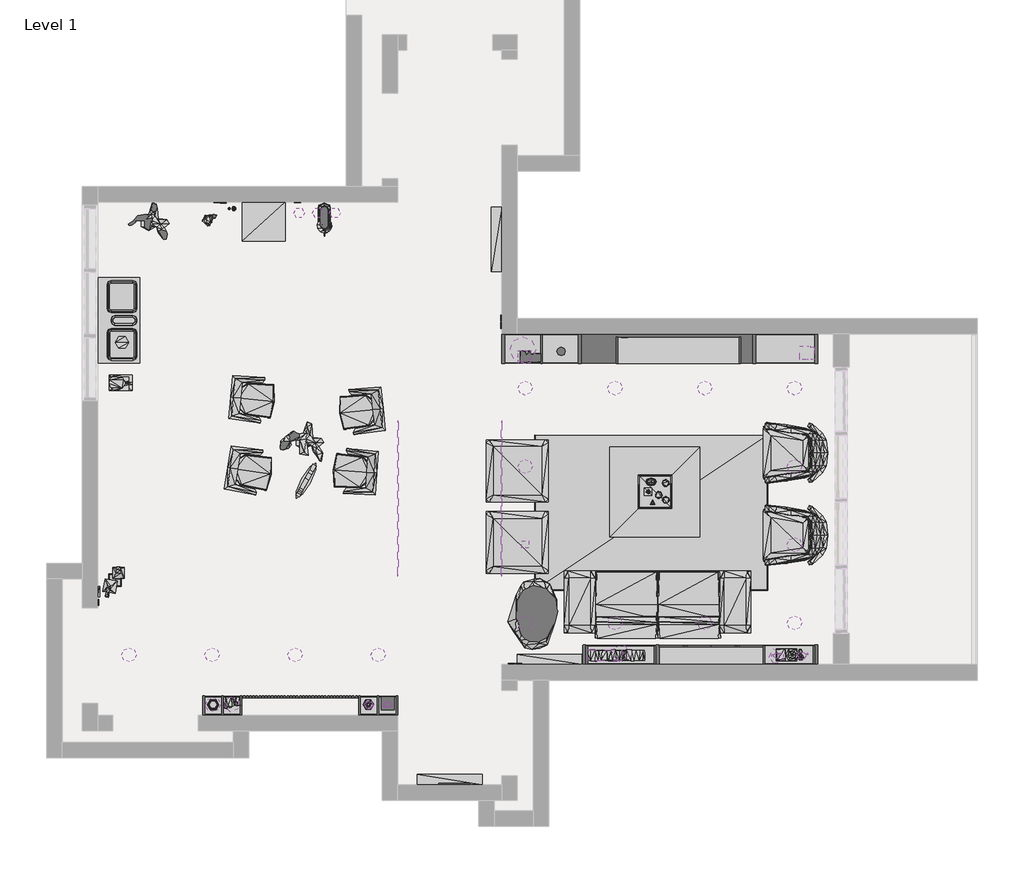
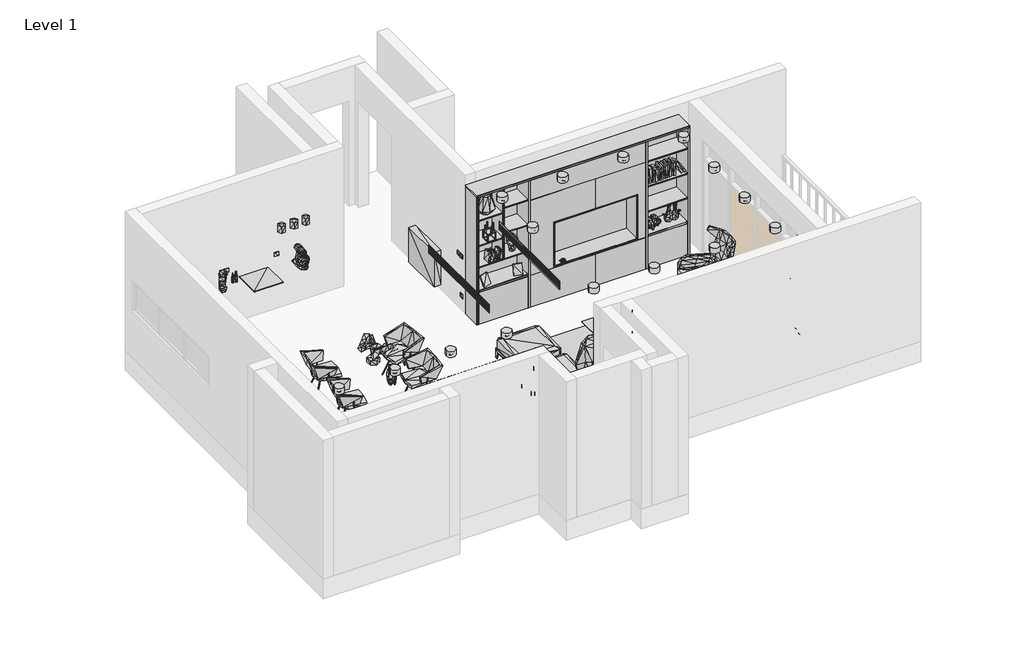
# One storey, part 2 of 2: 73 geographic elements, 17 flow terminals, 4 proxies.
"""IFC4 building model written with IfcOpenShell, lengths in millimetres."""

from ifc_helpers import new_model, si_unit, origin, place, context, project, spatial, transform, mapped, element, save
from components import generic_models_adb6d911, generic_models_1_generic_models_1_fe2f22d1, generic_models_1_generic_models_1_d486a0f3, generic_models_1_generic_models_1_61025e43, generic_models_1_generic_models_1_0ef974a1, inlet_grid_ga15_548a6d25, inlet_grid_ga15_cf351e9f, not_a_type_load_type_catalog_b4710a2c, not_a_type_load_type_catalog_97315635, sink_kitchen_triple_nz_1100_x_535mm_f9583cc0, sink_kitchen_triple_nz_1100_x_535mm_59c7ceb9, geographic_element_39f53625, geographic_element_b8c225c3, geographic_element_45d98eec, geographic_element_6c01276e, geographic_element_3c1573c1, geographic_element_afe0a627, geographic_element_decb433f, geographic_element_067eaa29, geographic_element_efaf2cf7, geographic_element_17db4b80, geographic_element_282e2fb7, geographic_element_2cbf6ab3, geographic_element_aec7c37b, geographic_element_3e976fe9, geographic_element_4d599565, geographic_element_47339385, geographic_element_9300c8df, geographic_element_2400c7e3, geographic_element_84c51689, enscape_assetdefinition_armchair_14_2_enscape_c5dd8c47, enscape_assetdefinition_books_02_1_enscape_assetdefinition_e079a25d, enscape_assetdefinition_books_04_enscape_assetdefinition_721f77ca, enscape_assetdefinition_books_09_1_enscape_assetdefinition_3c5f9357, enscape_assetdefinition_books_10_enscape_assetdefinition_bd5f69e2, enscape_assetdefinition_books_11_enscape_assetdefinition_d6c49cfa, enscape_assetdefinition_bottle_olive_oil_03_1_enscape_c004ce61, enscape_assetdefinition_bottle_olive_oil_1_enscape_0cd1fce3, enscape_assetdefinition_cutting_board_set_enscape_92c2f0eb, enscape_assetdefinition_electric_mixer_1_enscape_94847bc3, enscape_assetdefinition_heater_1_enscape_assetdefinition_d009f5ff, enscape_assetdefinition_interior_plant_17_enscape_d033fa1c, enscape_assetdefinition_interior_plant_81_enscape_1c3ac804, enscape_assetdefinition_interior_plant_90_1_enscape_fa028396, enscape_assetdefinition_light_switch_02_enscape_f65dbdaa, enscape_assetdefinition_lounge_armchair_09_1_enscape_0de7779d, enscape_assetdefinition_photo_frame_enscape_assetdefinition_5837e575, enscape_assetdefinition_picture_frame_portrait_1_enscape_684294eb, enscape_assetdefinition_power_socket_1_enscape_57b8c8f3, enscape_assetdefinition_rug_05_1_enscape_assetdefinition_rug_c4f60c79, enscape_assetdefinition_sculpture_man_enscape_320ed476, enscape_assetdefinition_side_table_15_1_enscape_5be1d814, enscape_assetdefinition_sofa_08_1_enscape_assetdefinition_1a7c3e80, enscape_assetdefinition_sofa_08_footrest_1_enscape_865466e6, enscape_assetdefinition_vase_07_enscape_assetdefinition_vase_3c7b1416, enscape_assetdefinition_vase_09_enscape_assetdefinition_vase_83b714b2, enscape_assetdefinition_vase_13_enscape_assetdefinition_vase_c3a81dce, enscape_assetdefinition_vase_15_enscape_assetdefinition_vase_f9fe4993, enscape_assetdefinition_vase_17_enscape_assetdefinition_vase_ec346c42, enscape_assetdefinition_wall_frame_03_enscape_afdf1664

model = new_model("IFC4")

# Units and contexts
model_context = context("Model", 3, world=origin())
ifc_project = project(units=[si_unit("LENGTHUNIT", "METRE", prefix="MILLI")], contexts=[model_context])

# Site, building, storey
site = spatial("IfcSite", under=ifc_project)
building = spatial("IfcBuilding", under=site)
storey = spatial("IfcBuildingStorey", under=building, Name="Level 1", Elevation=0.0)

# Proxies
placement = place(None, origin())
generic_models_shape = generic_models_adb6d911(model_context)
element("IfcBuildingElementProxy", 1, Name="ArcPro Statue : ArcPro Statue", ObjectType="ArcPro Statue : ArcPro Statue", at=placement, inside=storey, context=model_context, shape_type="MappedRepresentation", body=[
    mapped(generic_models_shape, transform((-6628.2619412, -392.0070722, 759.9999905), x_axis=(0.4848096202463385, 0.8746197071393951, 0.0), y_axis=(-0.8746197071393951, 0.4848096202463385, 0.0), z_axis=(0.0, 0.0, 1.0))),
])
generic_models_1_generic_models_1_shape = generic_models_1_generic_models_1_fe2f22d1(model_context)
generic_models_1_generic_models_1_2_shape = generic_models_1_generic_models_1_d486a0f3(model_context)
generic_models_1_generic_models_1_3_shape = generic_models_1_generic_models_1_61025e43(model_context)
generic_models_1_generic_models_1_4_shape = generic_models_1_generic_models_1_0ef974a1(model_context)
element("IfcBuildingElementProxy", 2, Name="Generic Models 1 : Generic Models 1", ObjectType="Generic Models 1 : Generic Models 1", at=placement, inside=storey, context=model_context, shape_type="MappedRepresentation", body=[
    mapped(generic_models_1_generic_models_1_shape, transform((0.0, 0.0, 0.0), x_axis=(1.0, 0.0, 0.0), y_axis=(0.0, 1.0, 0.0), z_axis=(0.0, 0.0, 1.0))),
    mapped(generic_models_1_generic_models_1_2_shape, transform((0.0, 0.0, 0.0), x_axis=(1.0, 0.0, 0.0), y_axis=(0.0, 1.0, 0.0), z_axis=(0.0, 0.0, 1.0))),
    mapped(generic_models_1_generic_models_1_3_shape, transform((0.0, 0.0, 0.0), x_axis=(1.0, 0.0, 0.0), y_axis=(0.0, 1.0, 0.0), z_axis=(0.0, 0.0, 1.0))),
    mapped(generic_models_1_generic_models_1_4_shape, transform((0.0, 0.0, 0.0), x_axis=(1.0, 0.0, 0.0), y_axis=(0.0, 1.0, 0.0), z_axis=(0.0, 0.0, 1.0))),
])
inlet_grid_ga15_shape = inlet_grid_ga15_548a6d25(model_context)
element("IfcBuildingElementProxy", 3, Name="HVAC_Accessories_Emmeti_Grid-GA : Inlet grid - GA15", ObjectType="HVAC_Accessories_Emmeti_Grid-GA : Inlet grid - GA15", at=placement, inside=storey, context=model_context, shape_type="MappedRepresentation", body=[
    mapped(inlet_grid_ga15_shape, transform((-4080.4531836, -1265.8416665, 2373.8570469), x_axis=(0.0, -1.0, 0.0), y_axis=(1.0, 0.0, 0.0), z_axis=(0.0, 0.0, 1.0))),
])
inlet_grid_ga15_2_shape = inlet_grid_ga15_cf351e9f(model_context)
element("IfcBuildingElementProxy", 4, Name="HVAC_Accessories_Emmeti_Grid-GA : Inlet grid - GA15", ObjectType="HVAC_Accessories_Emmeti_Grid-GA : Inlet grid - GA15", at=placement, inside=storey, context=model_context, shape_type="MappedRepresentation", body=[
    mapped(inlet_grid_ga15_2_shape, transform((-5422.4531836, -1265.8416665, 2373.8570469), x_axis=(0.0, -1.0, 0.0), y_axis=(1.0, 0.0, 0.0), z_axis=(0.0, 0.0, 1.0))),
])

# Flow terminals
not_a_type_load_type_catalog_shape = not_a_type_load_type_catalog_b4710a2c(model_context)
element("IfcFlowTerminal", 5, ObjectType="Lighting_Ceiling-Mounted_Lucent_Square_Edge_90 : Not A Type - Load Type Catalog", at=placement, inside=storey, context=model_context, shape_type="MappedRepresentation", body=[
    mapped(not_a_type_load_type_catalog_shape, transform((-321.4531836, 852.3404759, 2600.0), x_axis=(-1.0, 0.0, 0.0), y_axis=(0.0, 1.0, 0.0), z_axis=(0.0, 0.0, -1.0))),
])
element("IfcFlowTerminal", 6, ObjectType="Lighting_Ceiling-Mounted_Lucent_Square_Edge_90 : Not A Type - Load Type Catalog", at=placement, inside=storey, context=model_context, shape_type="MappedRepresentation", body=[
    mapped(not_a_type_load_type_catalog_shape, transform((-321.4531836, -2165.6595241, 2600.0), x_axis=(-1.0, 0.0, 0.0), y_axis=(0.0, 1.0, 0.0), z_axis=(0.0, 0.0, -1.0))),
])
element("IfcFlowTerminal", 7, ObjectType="Lighting_Ceiling-Mounted_Lucent_Square_Edge_90 : Not A Type - Load Type Catalog", at=placement, inside=storey, context=model_context, shape_type="MappedRepresentation", body=[
    mapped(not_a_type_load_type_catalog_shape, transform((-321.4531836, -1159.6595241, 2600.0), x_axis=(-1.0, 0.0, 0.0), y_axis=(0.0, 1.0, 0.0), z_axis=(0.0, 0.0, -1.0))),
])
element("IfcFlowTerminal", 8, ObjectType="Lighting_Ceiling-Mounted_Lucent_Square_Edge_90 : Not A Type - Load Type Catalog", at=placement, inside=storey, context=model_context, shape_type="MappedRepresentation", body=[
    mapped(not_a_type_load_type_catalog_shape, transform((-321.4531836, -153.6595241, 2600.0), x_axis=(-1.0, 0.0, 0.0), y_axis=(0.0, 1.0, 0.0), z_axis=(0.0, 0.0, -1.0))),
])
element("IfcFlowTerminal", 9, ObjectType="Lighting_Ceiling-Mounted_Lucent_Square_Edge_90 : Not A Type - Load Type Catalog", at=placement, inside=storey, context=model_context, shape_type="MappedRepresentation", body=[
    mapped(not_a_type_load_type_catalog_shape, transform((-3781.4531836, 852.3404759, 2600.0), x_axis=(-1.0, 0.0, 0.0), y_axis=(0.0, 1.0, 0.0), z_axis=(0.0, 0.0, -1.0))),
])
element("IfcFlowTerminal", 10, ObjectType="Lighting_Ceiling-Mounted_Lucent_Square_Edge_90 : Not A Type - Load Type Catalog", at=placement, inside=storey, context=model_context, shape_type="MappedRepresentation", body=[
    mapped(not_a_type_load_type_catalog_shape, transform((-3781.4531836, -2165.6595241, 2600.0), x_axis=(-1.0, 0.0, 0.0), y_axis=(0.0, 1.0, 0.0), z_axis=(0.0, 0.0, -1.0))),
])
element("IfcFlowTerminal", 11, ObjectType="Lighting_Ceiling-Mounted_Lucent_Square_Edge_90 : Not A Type - Load Type Catalog", at=placement, inside=storey, context=model_context, shape_type="MappedRepresentation", body=[
    mapped(not_a_type_load_type_catalog_shape, transform((-3781.4531836, -153.6595241, 2600.0), x_axis=(-1.0, 0.0, 0.0), y_axis=(0.0, 1.0, 0.0), z_axis=(0.0, 0.0, -1.0))),
])
element("IfcFlowTerminal", 12, ObjectType="Lighting_Ceiling-Mounted_Lucent_Square_Edge_90 : Not A Type - Load Type Catalog", at=placement, inside=storey, context=model_context, shape_type="MappedRepresentation", body=[
    mapped(not_a_type_load_type_catalog_shape, transform((-2628.1198503, 852.3404759, 2600.0), x_axis=(-1.0, 0.0, 0.0), y_axis=(0.0, 1.0, 0.0), z_axis=(0.0, 0.0, -1.0))),
])
element("IfcFlowTerminal", 13, ObjectType="Lighting_Ceiling-Mounted_Lucent_Square_Edge_90 : Not A Type - Load Type Catalog", at=placement, inside=storey, context=model_context, shape_type="MappedRepresentation", body=[
    mapped(not_a_type_load_type_catalog_shape, transform((-2628.1198503, -2165.6595241, 2600.0), x_axis=(-1.0, 0.0, 0.0), y_axis=(0.0, 1.0, 0.0), z_axis=(0.0, 0.0, -1.0))),
])
element("IfcFlowTerminal", 14, ObjectType="Lighting_Ceiling-Mounted_Lucent_Square_Edge_90 : Not A Type - Load Type Catalog", at=placement, inside=storey, context=model_context, shape_type="MappedRepresentation", body=[
    mapped(not_a_type_load_type_catalog_shape, transform((-1474.786517, 852.3404759, 2600.0), x_axis=(-1.0, 0.0, 0.0), y_axis=(0.0, 1.0, 0.0), z_axis=(0.0, 0.0, -1.0))),
])
element("IfcFlowTerminal", 15, ObjectType="Lighting_Ceiling-Mounted_Lucent_Square_Edge_90 : Not A Type - Load Type Catalog", at=placement, inside=storey, context=model_context, shape_type="MappedRepresentation", body=[
    mapped(not_a_type_load_type_catalog_shape, transform((-1474.786517, -2165.6595241, 2600.0), x_axis=(-1.0, 0.0, 0.0), y_axis=(0.0, 1.0, 0.0), z_axis=(0.0, 0.0, -1.0))),
])
element("IfcFlowTerminal", 16, ObjectType="Lighting_Ceiling-Mounted_Lucent_Square_Edge_90 : Not A Type - Load Type Catalog", at=placement, inside=storey, context=model_context, shape_type="MappedRepresentation", body=[
    mapped(not_a_type_load_type_catalog_shape, transform((-8871.4531836, -2575.6595241, 2600.0), x_axis=(-1.0, 0.0, 0.0), y_axis=(0.0, 1.0, 0.0), z_axis=(0.0, 0.0, -1.0))),
])
element("IfcFlowTerminal", 17, ObjectType="Lighting_Ceiling-Mounted_Lucent_Square_Edge_90 : Not A Type - Load Type Catalog", at=placement, inside=storey, context=model_context, shape_type="MappedRepresentation", body=[
    mapped(not_a_type_load_type_catalog_shape, transform((-7804.786517, -2575.6595241, 2600.0), x_axis=(-1.0, 0.0, 0.0), y_axis=(0.0, 1.0, 0.0), z_axis=(0.0, 0.0, -1.0))),
])
element("IfcFlowTerminal", 18, ObjectType="Lighting_Ceiling-Mounted_Lucent_Square_Edge_90 : Not A Type - Load Type Catalog", at=placement, inside=storey, context=model_context, shape_type="MappedRepresentation", body=[
    mapped(not_a_type_load_type_catalog_shape, transform((-6738.1198503, -2575.6595241, 2600.0), x_axis=(-1.0, 0.0, 0.0), y_axis=(0.0, 1.0, 0.0), z_axis=(0.0, 0.0, -1.0))),
])
element("IfcFlowTerminal", 19, ObjectType="Lighting_Ceiling-Mounted_Lucent_Square_Edge_90 : Not A Type - Load Type Catalog", at=placement, inside=storey, context=model_context, shape_type="MappedRepresentation", body=[
    mapped(not_a_type_load_type_catalog_shape, transform((-5671.4531836, -2575.6595241, 2600.0), x_axis=(-1.0, 0.0, 0.0), y_axis=(0.0, 1.0, 0.0), z_axis=(0.0, 0.0, -1.0))),
])
not_a_type_load_type_catalog_2_shape = not_a_type_load_type_catalog_97315635(model_context)
element("IfcFlowTerminal", 20, ObjectType="Lighting_Ceiling-Mounted_Lucent_Square_Edge_90 : Not A Type - Load Type Catalog", at=placement, inside=storey, context=model_context, shape_type="MappedRepresentation", body=[
    mapped(not_a_type_load_type_catalog_2_shape, transform((-3781.4531836, -1159.6595241, 2600.0), x_axis=(-1.0, 0.0, 0.0), y_axis=(0.0, 1.0, 0.0), z_axis=(0.0, 0.0, -1.0))),
])
sink_kitchen_triple_nz_1100_x_535mm_shape = sink_kitchen_triple_nz_1100_x_535mm_f9583cc0(model_context)
sink_kitchen_triple_nz_1100_x_535mm_2_shape = sink_kitchen_triple_nz_1100_x_535mm_59c7ceb9(model_context)
element("IfcFlowTerminal", 21, ObjectType="Sink Kitchen-Triple (NZ) : 1100 x 535mm", at=placement, inside=storey, context=model_context, shape_type="MappedRepresentation", body=[
    mapped(sink_kitchen_triple_nz_1100_x_535mm_shape, transform((-8998.5077825, 1706.7512353, -30.0), x_axis=(0.0, 1.0, 0.0), y_axis=(-1.0, 0.0, 0.0), z_axis=(0.0, 0.0, 1.0))),
    mapped(sink_kitchen_triple_nz_1100_x_535mm_2_shape, transform((-8998.5077825, 1706.7512353, -30.0), x_axis=(0.0, 1.0, 0.0), y_axis=(-1.0, 0.0, 0.0), z_axis=(0.0, 0.0, 1.0))),
])

# Geographic elements
geographic_element_shape = geographic_element_39f53625(model_context)
element("IfcGeographicElement", 22, ObjectType="Enscape AssetDefinition - Plushy 03 : Enscape AssetDefinition - Plushy 03", at=placement, inside=storey, context=model_context, shape_type="MappedRepresentation", body=[
    mapped(geographic_element_shape, transform((-231.4531836, -2595.6595241, 560.0), x_axis=(-1.0, 0.0, 0.0), y_axis=(0.0, -1.0, 0.0), z_axis=(0.0, 0.0, 1.0))),
])
geographic_element_2_shape = geographic_element_b8c225c3(model_context)
element("IfcGeographicElement", 23, ObjectType="Enscape AssetDefinition - Candle Lantern : Enscape AssetDefinition - Candle Lantern", at=placement, inside=storey, context=model_context, shape_type="MappedRepresentation", body=[
    mapped(geographic_element_2_shape, transform((-5546.4531836, -3197.7279962, 1017.2631209), x_axis=(1.0, 0.0, 0.0), y_axis=(0.0, 1.0, 0.0), z_axis=(0.0, 0.0, 1.0))),
])
geographic_element_3_shape = geographic_element_45d98eec(model_context)
element("IfcGeographicElement", 24, ObjectType="Enscape AssetDefinition - Candle Lantern 02 : Enscape AssetDefinition - Candle Lantern 02", at=placement, inside=storey, context=model_context, shape_type="MappedRepresentation", body=[
    mapped(geographic_element_3_shape, transform((-3811.4531836, 1349.3404759, 2080.0), x_axis=(1.0, 0.0, 0.0), y_axis=(0.0, 1.0, 0.0), z_axis=(0.0, 0.0, 1.0))),
])
geographic_element_4_shape = geographic_element_6c01276e(model_context)
element("IfcGeographicElement", 25, ObjectType="Enscape AssetDefinition - Canister 02 : Enscape AssetDefinition - Canister 02", at=placement, inside=storey, context=model_context, shape_type="MappedRepresentation", body=[
    mapped(geographic_element_4_shape, transform((-6226.4531836, 3104.3404759, 1640.084), x_axis=(1.0, 0.0, 0.0), y_axis=(0.0, 1.0, 0.0), z_axis=(0.0, 0.0, 1.0))),
])
element("IfcGeographicElement", 26, ObjectType="Enscape AssetDefinition - Canister 02 : Enscape AssetDefinition - Canister 02", at=placement, inside=storey, context=model_context, shape_type="MappedRepresentation", body=[
    mapped(geographic_element_4_shape, transform((-6446.4531836, 3104.3404759, 1640.084), x_axis=(1.0, 0.0, 0.0), y_axis=(0.0, 1.0, 0.0), z_axis=(0.0, 0.0, 1.0))),
])
element("IfcGeographicElement", 27, ObjectType="Enscape AssetDefinition - Canister 02 : Enscape AssetDefinition - Canister 02", at=placement, inside=storey, context=model_context, shape_type="MappedRepresentation", body=[
    mapped(geographic_element_4_shape, transform((-6686.4531836, 3104.3404759, 1640.084), x_axis=(1.0, 0.0, 0.0), y_axis=(0.0, 1.0, 0.0), z_axis=(0.0, 0.0, 1.0))),
])
geographic_element_5_shape = geographic_element_3c1573c1(model_context)
element("IfcGeographicElement", 28, ObjectType="Enscape AssetDefinition - Candle Tray : Enscape AssetDefinition - Candle Tray", at=placement, inside=storey, context=model_context, shape_type="MappedRepresentation", body=[
    mapped(geographic_element_5_shape, transform((-2121.4531836, -480.6595241, 232.5481288), x_axis=(1.0, 0.0, 0.0), y_axis=(0.0, 1.0, 0.0), z_axis=(0.0, 0.0, 1.0))),
])
geographic_element_6_shape = geographic_element_afe0a627(model_context)
element("IfcGeographicElement", 29, ObjectType="Enscape AssetDefinition - Pineapple 1 : Enscape AssetDefinition - Pineapple 1", at=placement, inside=storey, context=model_context, shape_type="MappedRepresentation", body=[
    mapped(geographic_element_6_shape, transform((-5791.4531836, -3215.6595241, 1258.104945), x_axis=(1.0, 0.0, 0.0), y_axis=(0.0, 1.0, 0.0), z_axis=(0.0, 0.0, 1.0))),
])
geographic_element_7_shape = geographic_element_decb433f(model_context)
element("IfcGeographicElement", 30, ObjectType="Enscape AssetDefinition - Sculpture, Bears : Enscape AssetDefinition - Sculpture, Bears", at=placement, inside=storey, context=model_context, shape_type="MappedRepresentation", body=[
    mapped(geographic_element_7_shape, transform((-621.4531836, 1355.2701692, 679.6691341), x_axis=(1.0, 0.0, 0.0), y_axis=(0.0, 1.0, 0.0), z_axis=(0.0, 0.0, 1.0))),
])
geographic_element_8_shape = geographic_element_067eaa29(model_context)
element("IfcGeographicElement", 31, ObjectType="Enscape AssetDefinition - Sculpture, Cats : Enscape AssetDefinition - Sculpture, Cats", at=placement, inside=storey, context=model_context, shape_type="MappedRepresentation", body=[
    mapped(geographic_element_8_shape, transform((-262.0450876, 1348.7991953, 680.0), x_axis=(1.0, 0.0, 0.0), y_axis=(0.0, 1.0, 0.0), z_axis=(0.0, 0.0, 1.0))),
])
geographic_element_9_shape = geographic_element_efaf2cf7(model_context)
element("IfcGeographicElement", 32, ObjectType="Enscape AssetDefinition - Umbrella Holder : Enscape AssetDefinition - Umbrella Holder", at=placement, inside=storey, context=model_context, shape_type="MappedRepresentation", body=[
    mapped(geographic_element_9_shape, transform((-9051.4531836, -1615.6595241, 0.0), x_axis=(1.0, 0.0, 0.0), y_axis=(0.0, 1.0, 0.0), z_axis=(0.0, 0.0, 1.0))),
])
geographic_element_10_shape = geographic_element_17db4b80(model_context)
element("IfcGeographicElement", 33, ObjectType="Enscape AssetDefinition - Stack of Bowls 02 : Enscape AssetDefinition - Stack of Bowls 02", at=placement, inside=storey, context=model_context, shape_type="MappedRepresentation", body=[
    mapped(geographic_element_10_shape, transform((-8962.7531836, 1441.0904759, 663.625), x_axis=(1.0, 0.0, 0.0), y_axis=(0.0, 1.0, 0.0), z_axis=(0.0, 0.0, 1.0))),
])
geographic_element_11_shape = geographic_element_282e2fb7(model_context)
element("IfcGeographicElement", 34, ObjectType="Enscape AssetDefinition - Candle Holder : Enscape AssetDefinition - Candle Holder", at=placement, inside=storey, context=model_context, shape_type="MappedRepresentation", body=[
    mapped(geographic_element_11_shape, transform((-3791.4531836, 1254.2545472, 1586.0258182), x_axis=(1.0, 0.0, 0.0), y_axis=(0.0, 1.0, 0.0), z_axis=(0.0, 0.0, 1.0))),
])
geographic_element_12_shape = geographic_element_2cbf6ab3(model_context)
element("IfcGeographicElement", 35, ObjectType="Enscape AssetDefinition - Cactus, Porcelain 02 : Enscape AssetDefinition - Cactus, Porcelain 02", at=placement, inside=storey, context=model_context, shape_type="MappedRepresentation", body=[
    mapped(geographic_element_12_shape, transform((-556.4531836, -2585.6595241, 2090.0), x_axis=(1.0, 0.0, 0.0), y_axis=(0.0, 1.0, 0.0), z_axis=(0.0, 0.0, 1.0))),
])
geographic_element_13_shape = geographic_element_aec7c37b(model_context)
element("IfcGeographicElement", 36, ObjectType="Enscape AssetDefinition - Cactus, Porcelain 03 : Enscape AssetDefinition - Cactus, Porcelain 03", at=placement, inside=storey, context=model_context, shape_type="MappedRepresentation", body=[
    mapped(geographic_element_13_shape, transform((-226.4531836, -2585.6595241, 1800.0), x_axis=(1.0, 0.0, 0.0), y_axis=(0.0, 1.0, 0.0), z_axis=(0.0, 0.0, 1.0))),
])
geographic_element_14_shape = geographic_element_3e976fe9(model_context)
element("IfcGeographicElement", 37, ObjectType="Enscape AssetDefinition - Rosemary, Potted 1 : Enscape AssetDefinition - Rosemary, Potted 1", at=placement, inside=storey, context=model_context, shape_type="MappedRepresentation", body=[
    mapped(geographic_element_14_shape, transform((-2561.4531836, -2551.562513, 1760.0), x_axis=(1.0, 0.0, 0.0), y_axis=(0.0, 1.0, 0.0), z_axis=(0.0, 0.0, 1.0))),
])
element("IfcGeographicElement", 38, ObjectType="Enscape AssetDefinition - Rosemary, Potted 1 : Enscape AssetDefinition - Rosemary, Potted 1", at=placement, inside=storey, context=model_context, shape_type="MappedRepresentation", body=[
    mapped(geographic_element_14_shape, transform((-3321.4531836, 1324.3404759, 1160.0), x_axis=(1.0, 0.0, 0.0), y_axis=(0.0, 1.0, 0.0), z_axis=(0.0, 0.0, 1.0))),
])
geographic_element_15_shape = geographic_element_4d599565(model_context)
element("IfcGeographicElement", 39, ObjectType="Enscape AssetDefinition - Decoration Collection : Enscape AssetDefinition - Decoration Collection", at=placement, inside=storey, context=model_context, shape_type="MappedRepresentation", body=[
    mapped(geographic_element_15_shape, transform((-391.4531836, -2575.6595241, 960.001), x_axis=(1.0, 0.0, 0.0), y_axis=(0.0, 1.0, 0.0), z_axis=(0.0, 0.0, 1.0))),
])
geographic_element_16_shape = geographic_element_47339385(model_context)
element("IfcGeographicElement", 40, ObjectType="Enscape AssetDefinition - Candle Tray 03 : Enscape AssetDefinition - Candle Tray 03", at=placement, inside=storey, context=model_context, shape_type="MappedRepresentation", body=[
    mapped(geographic_element_16_shape, transform((-556.9881717, -2595.6595241, 1360.0), x_axis=(1.0, 0.0, 0.0), y_axis=(0.0, 1.0, 0.0), z_axis=(0.0, 0.0, 1.0))),
])
geographic_element_17_shape = geographic_element_9300c8df(model_context)
element("IfcGeographicElement", 41, ObjectType="Enscape AssetDefinition - Cooking plate 1 : Enscape AssetDefinition - Cooking plate 1", at=placement, inside=storey, context=model_context, shape_type="MappedRepresentation", body=[
    mapped(geographic_element_17_shape, transform((-7141.4531836, 2994.3404759, 880.0), x_axis=(1.0, 0.0, 0.0), y_axis=(0.0, 1.0, 0.0), z_axis=(0.0, 0.0, 1.0))),
])
geographic_element_18_shape = geographic_element_2400c7e3(model_context)
element("IfcGeographicElement", 42, ObjectType="Enscape AssetDefinition - Origami Vase 03 : Enscape AssetDefinition - Origami Vase 03", at=placement, inside=storey, context=model_context, shape_type="MappedRepresentation", body=[
    mapped(geographic_element_18_shape, transform((-7551.0911821, -3215.6595241, 1468.104945), x_axis=(1.0, 0.0, 0.0), y_axis=(0.0, 1.0, 0.0), z_axis=(0.0, 0.0, 1.0))),
])
geographic_element_19_shape = geographic_element_84c51689(model_context)
element("IfcGeographicElement", 43, ObjectType="Enscape AssetDefinition - Intercom 1 : Enscape AssetDefinition - Intercom 1", at=placement, inside=storey, context=model_context, shape_type="MappedRepresentation", body=[
    mapped(geographic_element_19_shape, transform((-9271.4531836, -1760.6595241, 0.0), x_axis=(0.0, 1.0, 0.0), y_axis=(-1.0, 0.0, 0.0), z_axis=(0.0, 0.0, 1.0))),
])
enscape_assetdefinition_armchair_14_2_enscape_shape = enscape_assetdefinition_armchair_14_2_enscape_c5dd8c47(model_context)
element("IfcGeographicElement", 44, ObjectType="Enscape AssetDefinition - Armchair 14 2 : Enscape AssetDefinition - Armchair 14 2", at=placement, inside=storey, context=model_context, shape_type="MappedRepresentation", body=[
    mapped(enscape_assetdefinition_armchair_14_2_enscape_shape, transform((-321.4531836, -1039.409524, 0.0), x_axis=(0.0, -1.0, 0.0), y_axis=(1.0, 0.0, 0.0), z_axis=(0.0, 0.0, 1.0))),
])
element("IfcGeographicElement", 45, ObjectType="Enscape AssetDefinition - Armchair 14 2 : Enscape AssetDefinition - Armchair 14 2", at=placement, inside=storey, context=model_context, shape_type="MappedRepresentation", body=[
    mapped(enscape_assetdefinition_armchair_14_2_enscape_shape, transform((-321.4531836, 19.9654758, 0.0), x_axis=(0.0, -1.0, 0.0), y_axis=(1.0, 0.0, 0.0), z_axis=(0.0, 0.0, 1.0))),
])
enscape_assetdefinition_books_02_1_enscape_assetdefinition_shape = enscape_assetdefinition_books_02_1_enscape_assetdefinition_e079a25d(model_context)
element("IfcGeographicElement", 46, ObjectType="Enscape AssetDefinition - Books 02 1 : Enscape AssetDefinition - Books 02 1", at=placement, inside=storey, context=model_context, shape_type="MappedRepresentation", body=[
    mapped(enscape_assetdefinition_books_02_1_enscape_assetdefinition_shape, transform((-441.4531836, 1314.3404759, 1659.5863832), x_axis=(0.0, -1.0, 0.0), y_axis=(1.0, 0.0, 0.0), z_axis=(0.0, 0.0, 1.0))),
])
enscape_assetdefinition_books_04_enscape_assetdefinition_shape = enscape_assetdefinition_books_04_enscape_assetdefinition_721f77ca(model_context)
element("IfcGeographicElement", 47, ObjectType="Enscape AssetDefinition - Books 04 : Enscape AssetDefinition - Books 04", at=placement, inside=storey, context=model_context, shape_type="MappedRepresentation", body=[
    mapped(enscape_assetdefinition_books_04_enscape_assetdefinition_shape, transform((-2761.4531836, -2580.6595241, 1360.0), x_axis=(-1.0, 0.0, 0.0), y_axis=(0.0, -1.0, 0.0), z_axis=(0.0, 0.0, 1.0))),
])
enscape_assetdefinition_books_09_1_enscape_assetdefinition_shape = enscape_assetdefinition_books_09_1_enscape_assetdefinition_3c5f9357(model_context)
element("IfcGeographicElement", 48, ObjectType="Enscape AssetDefinition - Books 09 1 : Enscape AssetDefinition - Books 09 1", at=placement, inside=storey, context=model_context, shape_type="MappedRepresentation", body=[
    mapped(enscape_assetdefinition_books_09_1_enscape_assetdefinition_shape, transform((-3716.4531836, 1252.6434456, 1160.0332632), x_axis=(1.0, 0.0, 0.0), y_axis=(0.0, 1.0, 0.0), z_axis=(0.0, 0.0, 1.0))),
])
enscape_assetdefinition_books_10_enscape_assetdefinition_shape = enscape_assetdefinition_books_10_enscape_assetdefinition_bd5f69e2(model_context)
element("IfcGeographicElement", 49, ObjectType="Enscape AssetDefinition - Books 10 : Enscape AssetDefinition - Books 10", at=placement, inside=storey, context=model_context, shape_type="MappedRepresentation", body=[
    mapped(enscape_assetdefinition_books_10_enscape_assetdefinition_shape, transform((-7551.4531836, -3190.6595241, 808.104945), x_axis=(-1.0, 0.0, 0.0), y_axis=(0.0, -1.0, 0.0), z_axis=(0.0, 0.0, 1.0))),
])
enscape_assetdefinition_books_11_enscape_assetdefinition_shape = enscape_assetdefinition_books_11_enscape_assetdefinition_d6c49cfa(model_context)
element("IfcGeographicElement", 50, ObjectType="Enscape AssetDefinition - Books 11 : Enscape AssetDefinition - Books 11", at=placement, inside=storey, context=model_context, shape_type="MappedRepresentation", body=[
    mapped(enscape_assetdefinition_books_11_enscape_assetdefinition_shape, transform((-2609.8398316, -2583.2822739, 960.0), x_axis=(-0.9999673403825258, 0.008081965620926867, 0.0), y_axis=(-0.008081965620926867, -0.9999673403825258, 0.0), z_axis=(0.0, 0.0, 1.0))),
])
enscape_assetdefinition_bottle_olive_oil_03_1_enscape_shape = enscape_assetdefinition_bottle_olive_oil_03_1_enscape_c004ce61(model_context)
element("IfcGeographicElement", 51, ObjectType="Enscape AssetDefinition - Bottle, Olive Oil 03 1 : Enscape AssetDefinition - Bottle, Olive Oil 03 1", at=placement, inside=storey, context=model_context, shape_type="MappedRepresentation", body=[
    mapped(enscape_assetdefinition_bottle_olive_oil_03_1_enscape_shape, transform((-7584.3010852, 3160.3550918, 880.0), x_axis=(1.0, 0.0, 0.0), y_axis=(0.0, 1.0, 0.0), z_axis=(0.0, 0.0, 1.0))),
])
enscape_assetdefinition_bottle_olive_oil_1_enscape_shape = enscape_assetdefinition_bottle_olive_oil_1_enscape_0cd1fce3(model_context)
element("IfcGeographicElement", 52, ObjectType="Enscape AssetDefinition - Bottle, Olive Oil 1 : Enscape AssetDefinition - Bottle, Olive Oil 1", at=placement, inside=storey, context=model_context, shape_type="MappedRepresentation", body=[
    mapped(enscape_assetdefinition_bottle_olive_oil_1_enscape_shape, transform((-7524.3010852, 3160.3550918, 880.0), x_axis=(1.0, 0.0, 0.0), y_axis=(0.0, 1.0, 0.0), z_axis=(0.0, 0.0, 1.0))),
])
enscape_assetdefinition_cutting_board_set_enscape_shape = enscape_assetdefinition_cutting_board_set_enscape_92c2f0eb(model_context)
element("IfcGeographicElement", 53, ObjectType="Enscape AssetDefinition - Cutting Board Set : Enscape AssetDefinition - Cutting Board Set", at=placement, inside=storey, context=model_context, shape_type="MappedRepresentation", body=[
    mapped(enscape_assetdefinition_cutting_board_set_enscape_shape, transform((-9111.4531836, 924.3404759, 880.0), x_axis=(1.0, 0.0, 0.0), y_axis=(0.0, 1.0, 0.0), z_axis=(0.0, 0.0, 1.0))),
])
enscape_assetdefinition_electric_mixer_1_enscape_shape = enscape_assetdefinition_electric_mixer_1_enscape_94847bc3(model_context)
element("IfcGeographicElement", 54, ObjectType="Enscape AssetDefinition - Electric Mixer 1 : Enscape AssetDefinition - Electric Mixer 1", at=placement, inside=storey, context=model_context, shape_type="MappedRepresentation", body=[
    mapped(enscape_assetdefinition_electric_mixer_1_enscape_shape, transform((-6361.4531836, 3024.3404759, 880.0), x_axis=(1.0, 0.0, 0.0), y_axis=(0.0, 1.0, 0.0), z_axis=(0.0, 0.0, 1.0))),
])
enscape_assetdefinition_heater_1_enscape_assetdefinition_shape = enscape_assetdefinition_heater_1_enscape_assetdefinition_d009f5ff(model_context)
element("IfcGeographicElement", 55, ObjectType="Enscape AssetDefinition - Heater 1 : Enscape AssetDefinition - Heater 1", at=placement, inside=storey, context=model_context, shape_type="MappedRepresentation", body=[
    mapped(enscape_assetdefinition_heater_1_enscape_assetdefinition_shape, transform((-4751.4531836, -4245.6595241, 0.0), x_axis=(-1.0, 0.0, 0.0), y_axis=(0.0, -1.0, 0.0), z_axis=(0.0, 0.0, 1.0))),
])
element("IfcGeographicElement", 56, ObjectType="Enscape AssetDefinition - Heater 1 : Enscape AssetDefinition - Heater 1", at=placement, inside=storey, context=model_context, shape_type="MappedRepresentation", body=[
    mapped(enscape_assetdefinition_heater_1_enscape_assetdefinition_shape, transform((-3471.4531836, -2700.6595241, 0.0), x_axis=(-1.0, 0.0, 0.0), y_axis=(0.0, -1.0, 0.0), z_axis=(0.0, 0.0, 1.0))),
])
element("IfcGeographicElement", 57, ObjectType="Enscape AssetDefinition - Heater 1 : Enscape AssetDefinition - Heater 1", at=placement, inside=storey, context=model_context, shape_type="MappedRepresentation", body=[
    mapped(enscape_assetdefinition_heater_1_enscape_assetdefinition_shape, transform((-4081.4531836, 2764.3404759, 0.0), x_axis=(0.0, -1.0, 0.0), y_axis=(1.0, 0.0, 0.0), z_axis=(0.0, 0.0, 1.0))),
])
enscape_assetdefinition_interior_plant_17_enscape_shape = enscape_assetdefinition_interior_plant_17_enscape_d033fa1c(model_context)
element("IfcGeographicElement", 58, ObjectType="Enscape AssetDefinition - Interior Plant 17 : Enscape AssetDefinition - Interior Plant 17", at=placement, inside=storey, context=model_context, shape_type="MappedRepresentation", body=[
    mapped(enscape_assetdefinition_interior_plant_17_enscape_shape, transform((-3681.4531836, -2050.6595241, 0.0), x_axis=(0.0, 1.0, 0.0), y_axis=(-1.0, 0.0, 0.0), z_axis=(0.0, 0.0, 1.0))),
])
enscape_assetdefinition_interior_plant_81_enscape_shape = enscape_assetdefinition_interior_plant_81_enscape_1c3ac804(model_context)
element("IfcGeographicElement", 59, ObjectType="Enscape AssetDefinition - Interior Plant 81 : Enscape AssetDefinition - Interior Plant 81", at=placement, inside=storey, context=model_context, shape_type="MappedRepresentation", body=[
    mapped(enscape_assetdefinition_interior_plant_81_enscape_shape, transform((-7851.4531836, 3024.3404759, 880.0), x_axis=(1.0, 0.0, 0.0), y_axis=(0.0, 1.0, 0.0), z_axis=(0.0, 0.0, 1.0))),
])
enscape_assetdefinition_interior_plant_90_1_enscape_shape = enscape_assetdefinition_interior_plant_90_1_enscape_fa028396(model_context)
element("IfcGeographicElement", 60, ObjectType="Enscape AssetDefinition - Interior Plant 90 1 : Enscape AssetDefinition - Interior Plant 90 1", at=placement, inside=storey, context=model_context, shape_type="MappedRepresentation", body=[
    mapped(enscape_assetdefinition_interior_plant_90_1_enscape_shape, transform((-6631.4531121, 169.3404759, 759.9999905), x_axis=(1.0, 0.0, 0.0), y_axis=(0.0, 1.0, 0.0), z_axis=(0.0, 0.0, 1.0))),
])
element("IfcGeographicElement", 61, ObjectType="Enscape AssetDefinition - Interior Plant 90 1 : Enscape AssetDefinition - Interior Plant 90 1", at=placement, inside=storey, context=model_context, shape_type="MappedRepresentation", body=[
    mapped(enscape_assetdefinition_interior_plant_90_1_enscape_shape, transform((-8621.4531836, 2984.3404759, 880.0), x_axis=(1.0, 0.0, 0.0), y_axis=(0.0, 1.0, 0.0), z_axis=(0.0, 0.0, 1.0))),
])
enscape_assetdefinition_light_switch_02_enscape_shape = enscape_assetdefinition_light_switch_02_enscape_f65dbdaa(model_context)
element("IfcGeographicElement", 62, ObjectType="Enscape AssetDefinition - Light Switch 02 : Enscape AssetDefinition - Light Switch 02", at=placement, inside=storey, context=model_context, shape_type="MappedRepresentation", body=[
    mapped(enscape_assetdefinition_light_switch_02_enscape_shape, transform((-9271.4531836, -1900.6595241, 1100.0), x_axis=(0.0, 1.0, 0.0), y_axis=(-1.0, 0.0, 0.0), z_axis=(0.0, 0.0, 1.0))),
])
element("IfcGeographicElement", 63, ObjectType="Enscape AssetDefinition - Light Switch 02 : Enscape AssetDefinition - Light Switch 02", at=placement, inside=storey, context=model_context, shape_type="MappedRepresentation", body=[
    mapped(enscape_assetdefinition_light_switch_02_enscape_shape, transform((-3956.4531836, -2700.6595241, 1100.0), x_axis=(-1.0, 0.0, 0.0), y_axis=(0.0, -1.0, 0.0), z_axis=(0.0, 0.0, 1.0))),
])
element("IfcGeographicElement", 64, ObjectType="Enscape AssetDefinition - Light Switch 02 : Enscape AssetDefinition - Light Switch 02", at=placement, inside=storey, context=model_context, shape_type="MappedRepresentation", body=[
    mapped(enscape_assetdefinition_light_switch_02_enscape_shape, transform((-3866.4531836, -2700.6595241, 1100.0), x_axis=(-1.0, 0.0, 0.0), y_axis=(0.0, -1.0, 0.0), z_axis=(0.0, 0.0, 1.0))),
])
element("IfcGeographicElement", 65, ObjectType="Enscape AssetDefinition - Light Switch 02 : Enscape AssetDefinition - Light Switch 02", at=placement, inside=storey, context=model_context, shape_type="MappedRepresentation", body=[
    mapped(enscape_assetdefinition_light_switch_02_enscape_shape, transform((-7661.4531836, 3244.3404759, 1100.0), x_axis=(1.0, 0.0, 0.0), y_axis=(0.0, 1.0, 0.0), z_axis=(0.0, 0.0, 1.0))),
])
element("IfcGeographicElement", 66, ObjectType="Enscape AssetDefinition - Light Switch 02 : Enscape AssetDefinition - Light Switch 02", at=placement, inside=storey, context=model_context, shape_type="MappedRepresentation", body=[
    mapped(enscape_assetdefinition_light_switch_02_enscape_shape, transform((-4081.4531836, 1661.8943557, 1100.0), x_axis=(0.0, -1.0, 0.0), y_axis=(1.0, 0.0, 0.0), z_axis=(0.0, 0.0, 1.0))),
])
element("IfcGeographicElement", 67, ObjectType="Enscape AssetDefinition - Light Switch 02 : Enscape AssetDefinition - Light Switch 02", at=placement, inside=storey, context=model_context, shape_type="MappedRepresentation", body=[
    mapped(enscape_assetdefinition_light_switch_02_enscape_shape, transform((-4081.4531836, 1751.8943557, 1100.0), x_axis=(0.0, -1.0, 0.0), y_axis=(1.0, 0.0, 0.0), z_axis=(0.0, 0.0, 1.0))),
])
enscape_assetdefinition_lounge_armchair_09_1_enscape_shape = enscape_assetdefinition_lounge_armchair_09_1_enscape_0de7779d(model_context)
element("IfcGeographicElement", 68, ObjectType="Enscape AssetDefinition - Lounge Armchair 09 1 : Enscape AssetDefinition - Lounge Armchair 09 1", at=placement, inside=storey, context=model_context, shape_type="MappedRepresentation", body=[
    mapped(enscape_assetdefinition_lounge_armchair_09_1_enscape_shape, transform((-7271.5250615, 707.922484, 0.0), x_axis=(0.10122007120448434, 0.9948640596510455, 0.0), y_axis=(-0.9948640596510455, 0.10122007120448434, 0.0), z_axis=(0.0, 0.0, 1.0))),
])
element("IfcGeographicElement", 69, ObjectType="Enscape AssetDefinition - Lounge Armchair 09 1 : Enscape AssetDefinition - Lounge Armchair 09 1", at=placement, inside=storey, context=model_context, shape_type="MappedRepresentation", body=[
    mapped(enscape_assetdefinition_lounge_armchair_09_1_enscape_shape, transform((-7311.6209197, -212.8213456, 0.0), x_axis=(0.15431663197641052, 0.9880214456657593, 0.0), y_axis=(-0.9880214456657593, 0.15431663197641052, 0.0), z_axis=(0.0, 0.0, 1.0))),
])
element("IfcGeographicElement", 70, ObjectType="Enscape AssetDefinition - Lounge Armchair 09 1 : Enscape AssetDefinition - Lounge Armchair 09 1", at=placement, inside=storey, context=model_context, shape_type="MappedRepresentation", body=[
    mapped(enscape_assetdefinition_lounge_armchair_09_1_enscape_shape, transform((-5981.4190584, -219.6823057, 0.0), x_axis=(-0.0697564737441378, -0.9975640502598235, 0.0), y_axis=(0.9975640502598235, -0.0697564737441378, 0.0), z_axis=(0.0, 0.0, 1.0))),
])
element("IfcGeographicElement", 71, ObjectType="Enscape AssetDefinition - Lounge Armchair 09 1 : Enscape AssetDefinition - Lounge Armchair 09 1", at=placement, inside=storey, context=model_context, shape_type="MappedRepresentation", body=[
    mapped(enscape_assetdefinition_lounge_armchair_09_1_enscape_shape, transform((-5901.3764409, 558.5011367, 0.0), x_axis=(0.104528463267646, -0.9945218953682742, 0.0), y_axis=(0.9945218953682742, 0.104528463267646, 0.0), z_axis=(0.0, 0.0, 1.0))),
])
enscape_assetdefinition_photo_frame_enscape_assetdefinition_shape = enscape_assetdefinition_photo_frame_enscape_assetdefinition_5837e575(model_context)
element("IfcGeographicElement", 72, ObjectType="Enscape AssetDefinition - Photo Frame : Enscape AssetDefinition - Photo Frame", at=placement, inside=storey, context=model_context, shape_type="MappedRepresentation", body=[
    mapped(enscape_assetdefinition_photo_frame_enscape_assetdefinition_shape, transform((-3269.9972203, 1242.3368584, 679.4), x_axis=(0.9659258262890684, -0.2588190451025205, 0.0), y_axis=(0.2588190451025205, 0.9659258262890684, 0.0), z_axis=(0.0, 0.0, 1.0))),
])
enscape_assetdefinition_picture_frame_portrait_1_enscape_shape = enscape_assetdefinition_picture_frame_portrait_1_enscape_684294eb(model_context)
element("IfcGeographicElement", 73, ObjectType="Enscape AssetDefinition - Picture Frame Portrait 1 : Enscape AssetDefinition - Picture Frame Portrait 1", at=placement, inside=storey, context=model_context, shape_type="MappedRepresentation", body=[
    mapped(enscape_assetdefinition_picture_frame_portrait_1_enscape_shape, transform((-3871.1703793, 1302.9612551, 679.375), x_axis=(0.2756373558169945, -0.9612616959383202, 0.0), y_axis=(0.9612616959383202, 0.2756373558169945, 0.0), z_axis=(0.0, 0.0, 1.0))),
])
enscape_assetdefinition_power_socket_1_enscape_shape = enscape_assetdefinition_power_socket_1_enscape_57b8c8f3(model_context)
element("IfcGeographicElement", 74, ObjectType="Enscape AssetDefinition - Power Socket 1 : Enscape AssetDefinition - Power Socket 1", at=placement, inside=storey, context=model_context, shape_type="MappedRepresentation", body=[
    mapped(enscape_assetdefinition_power_socket_1_enscape_shape, transform((-9271.4531836, -1900.6595241, 300.0), x_axis=(0.0, 1.0, 0.0), y_axis=(-1.0, 0.0, 0.0), z_axis=(0.0, 0.0, 1.0))),
])
element("IfcGeographicElement", 75, ObjectType="Enscape AssetDefinition - Power Socket 1 : Enscape AssetDefinition - Power Socket 1", at=placement, inside=storey, context=model_context, shape_type="MappedRepresentation", body=[
    mapped(enscape_assetdefinition_power_socket_1_enscape_shape, transform((-3866.4531836, -2700.6595241, 300.0), x_axis=(-1.0, 0.0, 0.0), y_axis=(0.0, -1.0, 0.0), z_axis=(0.0, 0.0, 1.0))),
])
element("IfcGeographicElement", 76, ObjectType="Enscape AssetDefinition - Power Socket 1 : Enscape AssetDefinition - Power Socket 1", at=placement, inside=storey, context=model_context, shape_type="MappedRepresentation", body=[
    mapped(enscape_assetdefinition_power_socket_1_enscape_shape, transform((-4081.4531836, 1661.8943557, 300.0), x_axis=(0.0, -1.0, 0.0), y_axis=(1.0, 0.0, 0.0), z_axis=(0.0, 0.0, 1.0))),
])
element("IfcGeographicElement", 77, ObjectType="Enscape AssetDefinition - Power Socket 1 : Enscape AssetDefinition - Power Socket 1", at=placement, inside=storey, context=model_context, shape_type="MappedRepresentation", body=[
    mapped(enscape_assetdefinition_power_socket_1_enscape_shape, transform((-2506.4531836, 1512.3453695, 800.0), x_axis=(1.0, 0.0, 0.0), y_axis=(0.0, 1.0, 0.0), z_axis=(0.0, 0.0, 1.0))),
])
element("IfcGeographicElement", 78, ObjectType="Enscape AssetDefinition - Power Socket 1 : Enscape AssetDefinition - Power Socket 1", at=placement, inside=storey, context=model_context, shape_type="MappedRepresentation", body=[
    mapped(enscape_assetdefinition_power_socket_1_enscape_shape, transform((-6706.4531836, 3244.3404759, 1100.0), x_axis=(1.0, 0.0, 0.0), y_axis=(0.0, 1.0, 0.0), z_axis=(0.0, 0.0, 1.0))),
])
element("IfcGeographicElement", 79, ObjectType="Enscape AssetDefinition - Power Socket 1 : Enscape AssetDefinition - Power Socket 1", at=placement, inside=storey, context=model_context, shape_type="MappedRepresentation", body=[
    mapped(enscape_assetdefinition_power_socket_1_enscape_shape, transform((-7746.4531836, 3244.3404759, 1100.0), x_axis=(1.0, 0.0, 0.0), y_axis=(0.0, 1.0, 0.0), z_axis=(0.0, 0.0, 1.0))),
])
element("IfcGeographicElement", 80, ObjectType="Enscape AssetDefinition - Power Socket 1 : Enscape AssetDefinition - Power Socket 1", at=placement, inside=storey, context=model_context, shape_type="MappedRepresentation", body=[
    mapped(enscape_assetdefinition_power_socket_1_enscape_shape, transform((-3956.4531836, -2700.6595241, 300.0), x_axis=(-1.0, 0.0, 0.0), y_axis=(0.0, -1.0, 0.0), z_axis=(0.0, 0.0, 1.0))),
])
enscape_assetdefinition_rug_05_1_enscape_assetdefinition_rug_shape = enscape_assetdefinition_rug_05_1_enscape_assetdefinition_rug_c4f60c79(model_context)
element("IfcGeographicElement", 81, ObjectType="Enscape AssetDefinition - Rug 05 1 : Enscape AssetDefinition - Rug 05 1", at=placement, inside=storey, context=model_context, shape_type="MappedRepresentation", body=[
    mapped(enscape_assetdefinition_rug_05_1_enscape_assetdefinition_rug_shape, transform((-2161.4531836, -750.6595241, 0.0), x_axis=(0.0, 1.0, 0.0), y_axis=(-1.0, 0.0, 0.0), z_axis=(0.0, 0.0, 1.0))),
])
enscape_assetdefinition_sculpture_man_enscape_shape = enscape_assetdefinition_sculpture_man_enscape_320ed476(model_context)
element("IfcGeographicElement", 82, ObjectType="Enscape AssetDefinition - Sculpture, Man : Enscape AssetDefinition - Sculpture, Man", at=placement, inside=storey, context=model_context, shape_type="MappedRepresentation", body=[
    mapped(enscape_assetdefinition_sculpture_man_enscape_shape, transform((-5561.4531836, -3215.6595241, 2258.104945), x_axis=(-1.0, 0.0, 0.0), y_axis=(0.0, -1.0, 0.0), z_axis=(0.0, 0.0, 1.0))),
])
element("IfcGeographicElement", 83, ObjectType="Enscape AssetDefinition - Sculpture, Woman 02 : Enscape AssetDefinition - Sculpture, Woman 02", at=placement, inside=storey, context=model_context, shape_type="MappedRepresentation", body=[
    mapped(enscape_assetdefinition_sculpture_man_enscape_shape, transform((-5791.4531801, -3215.659518, 1978.104945), x_axis=(-1.0, 0.0, 0.0), y_axis=(0.0, -1.0, 0.0), z_axis=(0.0, 0.0, 1.0))),
])
element("IfcGeographicElement", 84, ObjectType="Enscape AssetDefinition - Sculpture, Woman : Enscape AssetDefinition - Sculpture, Woman", at=placement, inside=storey, context=model_context, shape_type="MappedRepresentation", body=[
    mapped(enscape_assetdefinition_sculpture_man_enscape_shape, transform((-5541.4531836, -3215.6595241, 1738.104945), x_axis=(-1.0, 0.0, 0.0), y_axis=(0.0, -1.0, 0.0), z_axis=(0.0, 0.0, 1.0))),
])
enscape_assetdefinition_side_table_15_1_enscape_shape = enscape_assetdefinition_side_table_15_1_enscape_5be1d814(model_context)
element("IfcGeographicElement", 85, ObjectType="Enscape AssetDefinition - Side Table 15 1 : Enscape AssetDefinition - Side Table 15 1", at=placement, inside=storey, context=model_context, shape_type="MappedRepresentation", body=[
    mapped(enscape_assetdefinition_side_table_15_1_enscape_shape, transform((-2116.0485399, -480.2224134, 0.0), x_axis=(1.0, 0.0, 0.0), y_axis=(0.0, 1.0, 0.0), z_axis=(0.0, 0.0, 1.0))),
])
enscape_assetdefinition_sofa_08_1_enscape_assetdefinition_shape = enscape_assetdefinition_sofa_08_1_enscape_assetdefinition_1a7c3e80(model_context)
element("IfcGeographicElement", 86, ObjectType="Enscape AssetDefinition - Sofa 08 1 : Enscape AssetDefinition - Sofa 08 1", at=placement, inside=storey, context=model_context, shape_type="MappedRepresentation", body=[
    mapped(enscape_assetdefinition_sofa_08_1_enscape_assetdefinition_shape, transform((-2081.4531836, -1900.6595241, 0.0), x_axis=(-1.0, 0.0, 0.0), y_axis=(0.0, -1.0, 0.0), z_axis=(0.0, 0.0, 1.0))),
])
enscape_assetdefinition_sofa_08_footrest_1_enscape_shape = enscape_assetdefinition_sofa_08_footrest_1_enscape_865466e6(model_context)
element("IfcGeographicElement", 87, ObjectType="Enscape AssetDefinition - Sofa 08, Footrest 1 : Enscape AssetDefinition - Sofa 08, Footrest 1", at=placement, inside=storey, context=model_context, shape_type="MappedRepresentation", body=[
    mapped(enscape_assetdefinition_sofa_08_footrest_1_enscape_shape, transform((-3881.4531836, -210.6595241, 0.0), x_axis=(1.0, 0.0, 0.0), y_axis=(0.0, 1.0, 0.0), z_axis=(0.0, 0.0, 1.0))),
])
element("IfcGeographicElement", 88, ObjectType="Enscape AssetDefinition - Sofa 08, Footrest 1 : Enscape AssetDefinition - Sofa 08, Footrest 1", at=placement, inside=storey, context=model_context, shape_type="MappedRepresentation", body=[
    mapped(enscape_assetdefinition_sofa_08_footrest_1_enscape_shape, transform((-3881.4531836, -1130.6595241, 0.0), x_axis=(1.0, 0.0, 0.0), y_axis=(0.0, 1.0, 0.0), z_axis=(0.0, 0.0, 1.0))),
])
enscape_assetdefinition_vase_07_enscape_assetdefinition_vase_shape = enscape_assetdefinition_vase_07_enscape_assetdefinition_vase_3c7b1416(model_context)
element("IfcGeographicElement", 89, ObjectType="Enscape AssetDefinition - Vase 07 : Enscape AssetDefinition - Vase 07", at=placement, inside=storey, context=model_context, shape_type="MappedRepresentation", body=[
    mapped(enscape_assetdefinition_vase_07_enscape_assetdefinition_vase_shape, transform((-5547.3641839, -3215.6595241, 357.5), x_axis=(1.0, 0.0, 0.0), y_axis=(0.0, 1.0, 0.0), z_axis=(0.0, 0.0, 1.0))),
])
enscape_assetdefinition_vase_09_enscape_assetdefinition_vase_shape = enscape_assetdefinition_vase_09_enscape_assetdefinition_vase_83b714b2(model_context)
element("IfcGeographicElement", 90, ObjectType="Enscape AssetDefinition - Vase 09 : Enscape AssetDefinition - Vase 09", at=placement, inside=storey, context=model_context, shape_type="MappedRepresentation", body=[
    mapped(enscape_assetdefinition_vase_09_enscape_assetdefinition_vase_shape, transform((-7791.4531836, -3215.6595241, 1878.104945), x_axis=(1.0, 0.0, 0.0), y_axis=(0.0, 1.0, 0.0), z_axis=(0.0, 0.0, 1.0))),
])
enscape_assetdefinition_vase_13_enscape_assetdefinition_vase_shape = enscape_assetdefinition_vase_13_enscape_assetdefinition_vase_c3a81dce(model_context)
element("IfcGeographicElement", 91, ObjectType="Enscape AssetDefinition - Vase 13 : Enscape AssetDefinition - Vase 13", at=placement, inside=storey, context=model_context, shape_type="MappedRepresentation", body=[
    mapped(enscape_assetdefinition_vase_13_enscape_assetdefinition_vase_shape, transform((-5814.3411843, -3215.493024, 598.3359449), x_axis=(1.0, 0.0, 0.0), y_axis=(0.0, 1.0, 0.0), z_axis=(0.0, 0.0, 1.0))),
])
enscape_assetdefinition_vase_15_enscape_assetdefinition_vase_shape = enscape_assetdefinition_vase_15_enscape_assetdefinition_vase_f9fe4993(model_context)
element("IfcGeographicElement", 92, ObjectType="Enscape AssetDefinition - Vase 15 : Enscape AssetDefinition - Vase 15", at=placement, inside=storey, context=model_context, shape_type="MappedRepresentation", body=[
    mapped(enscape_assetdefinition_vase_15_enscape_assetdefinition_vase_shape, transform((-7791.4531836, -3215.6595241, 1144.8069447), x_axis=(1.0, 0.0, 0.0), y_axis=(0.0, 1.0, 0.0), z_axis=(0.0, 0.0, 1.0))),
])
enscape_assetdefinition_vase_17_enscape_assetdefinition_vase_shape = enscape_assetdefinition_vase_17_enscape_assetdefinition_vase_ec346c42(model_context)
element("IfcGeographicElement", 93, ObjectType="Enscape AssetDefinition - Vase 17 : Enscape AssetDefinition - Vase 17", at=placement, inside=storey, context=model_context, shape_type="MappedRepresentation", body=[
    mapped(enscape_assetdefinition_vase_17_enscape_assetdefinition_vase_shape, transform((-7794.334663, -3214.7337954, 498.104945), x_axis=(1.0, 0.0, 0.0), y_axis=(0.0, 1.0, 0.0), z_axis=(0.0, 0.0, 1.0))),
])
enscape_assetdefinition_wall_frame_03_enscape_shape = enscape_assetdefinition_wall_frame_03_enscape_afdf1664(model_context)
element("IfcGeographicElement", 94, ObjectType="Enscape AssetDefinition - Wall Frame 03 : Enscape AssetDefinition - Wall Frame 03", at=placement, inside=storey, context=model_context, shape_type="MappedRepresentation", body=[
    mapped(enscape_assetdefinition_wall_frame_03_enscape_shape, transform((-4691.4531836, -4245.6595241, 1000.0), x_axis=(-1.0, 0.0, 0.0), y_axis=(0.0, -1.0, 0.0), z_axis=(0.0, 0.0, 1.0))),
])

save(model, "model.ifc")
